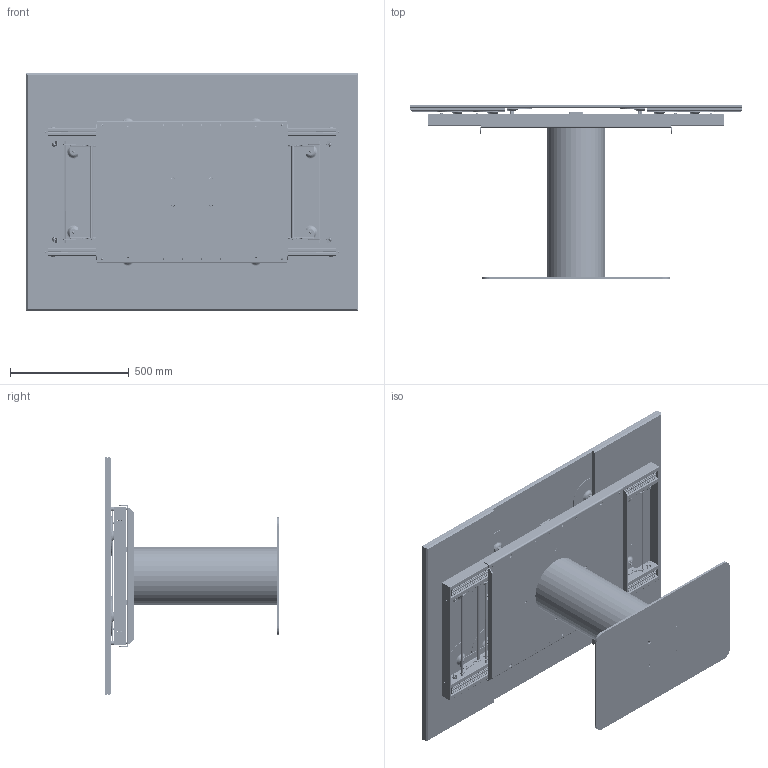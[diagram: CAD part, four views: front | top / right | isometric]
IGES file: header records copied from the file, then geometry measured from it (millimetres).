
Start section: SolidWorks IGES file using analytic representation for surfaces
Global section: file name: Y:\eforma\TECNICO\SOLIDWORKS\E-FORMA\1-TAVOLI\CILINDRO ALLUNGABILE\02 parts\CA32C_CHIUSO.IGS; native system: SolidWorks 2022; preprocessor: SolidWorks 2022; author: eforma.tech; date: 240808.093717; units: millimetre
Bounding box: 1400.02 x 735.5 x 1000 mm (x, y, z)
Volume: 43811833.8 mm3; surface area: 15513988.3 mm2
Topology: 271 solids, 271 shells, 9060 faces, 22134 edges, 13848 vertices
Faces by surface type: plane 4158, revolution 3878, bspline 1024
